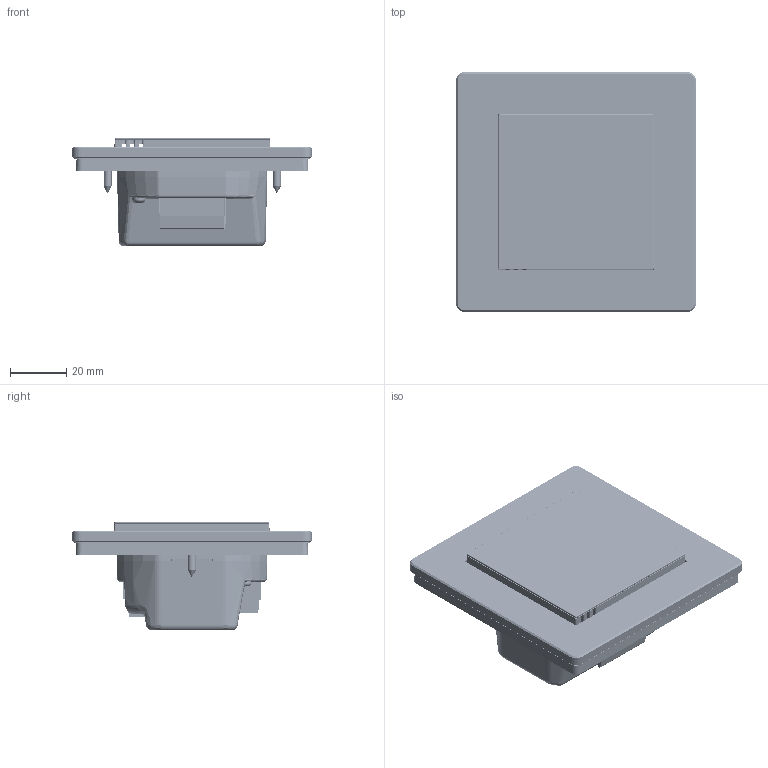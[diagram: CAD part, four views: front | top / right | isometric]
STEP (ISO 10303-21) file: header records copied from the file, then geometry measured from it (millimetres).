
FILE_DESCRIPTION(/* description */ ('','CAx-IF Rec.Pracs.---Representation and Presentation of Product Manufacturing Information (PMI)---4.0---2014-10-13'),/* implementation_level */ '2;1');
FILE_NAME(/* name */ 'FS-01m.step',/* time_stamp */ '2025-02-23T20:10:57+01:00',/* author */ (''),/* organization */ (''),/* preprocessor_version */ 'ST-DEVELOPER v20',/* originating_system */ 'Autodesk Translation Framework v13.20.0.188',/* authorisation */ '');
FILE_SCHEMA (('AP242_MANAGED_MODEL_BASED_3D_ENGINEERING_MIM_LF { 1 0 10303 442 1 1 4 }'));
Products named in the file (29): wersja 1.3_eink; tht prosty L20; tht prosty; microUSB_pionowe; Gniazdo rast2; spod1; Plytka1.2; Led_izolator_ramka_01; szkło_eink; Gora3; PODSWIETLENIE; FS-01 FARBA; ramka_1; PODSTAWA RAMKI SZKLANEJ 1; logo sinum-tech; szkło RAMKI SZKLANEJ 1; 3m_01; Wkręt samogwintujący PN-EN ISO 7050 - ST 2.9 x 
9.5 - C - H Stal 8.8 Płaszczyzna v1; przełącznik szklany; szkło; tył klawisz; OP-1398_C; Blacha1.2; DIN ISO 7049 - C-H ST2.2 x 9.5 - C - H; WS-01  FARBA; OP-1399_K; FOB08D880ED1gk8; PODSWIETLENIE_1; DG128-5.0-02P-14-00AH
Assembly tree (47 placements, depth 4):
  wersja 1.3_eink
    tht prosty L20  x8
    tht prosty  x8
    microUSB_pionowe
    Gniazdo rast2
    spod1
    Plytka1.2
    Led_izolator_ramka_01
    szkło_eink
    Gora3
    PODSWIETLENIE
    FS-01 FARBA
    ramka_1
      PODSTAWA RAMKI SZKLANEJ 1
      logo sinum-tech
      szkło RAMKI SZKLANEJ 1
      3m_01
    Wkręt samogwintujący PN-EN ISO 7050 - ST 2.9 x 
9.5 - C - H Stal 8.8 Płaszczyzna v1  x2
    przełącznik szklany
      szkło
      PODSWIETLENIE_1  x3
      tył klawisz
        OP-1398_C
        Blacha1.2
        DIN ISO 7049 - C-H ST2.2 x 9.5 - C - H  x2
      WS-01  FARBA
      OP-1399_K
      DG128-5.0-02P-14-00AH  x2
      FOB08D880ED1gk8
Bounding box: 85 x 85 x 38.62 mm (x, y, z)
Volume: 68849.7 mm3; surface area: 97045.2 mm2
Topology: 56 solids, 56 shells, 7281 faces, 19698 edges, 12813 vertices
Faces by surface type: plane 3385, cone 1818, bspline 1192, cylinder 625, torus 196, sphere 65
Full cylindrical faces by diameter (mm): 0.25 x1, 0.437 x1, 0.601 x1, 0.8 x4, 1 x4, 1.7 x2, 2 x1, 2.2 x2, 2.4 x2, 2.83 x2, 2.9 x3, 3.5 x4, 4 x4, 4.099 x6, 4.1 x8, 5.5 x2
Entity records: 217314 total; most frequent: CARTESIAN_POINT 66717, ORIENTED_EDGE 31102, DIRECTION 28059, EDGE_CURVE 15551, VERTEX_POINT 11163, LINE 9801, VECTOR 9801, AXIS2_PLACEMENT_3D 9129
